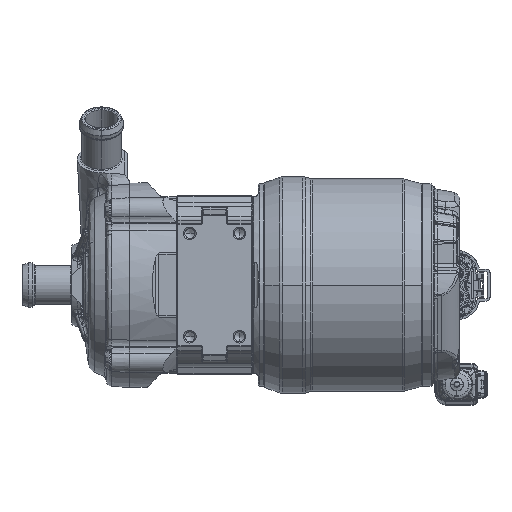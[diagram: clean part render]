
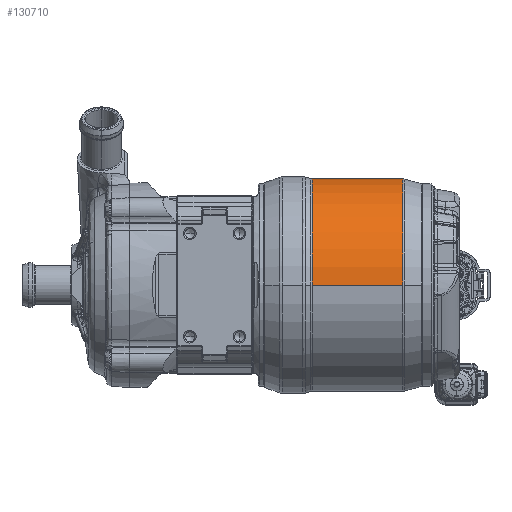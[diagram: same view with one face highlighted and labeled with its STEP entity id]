
A CAD part, front view. The second image highlights one B-rep face of the part: STEP entity #130710.
In plain terms, the highlighted cylindrical face has radius 53.5 mm (diameter 107 mm), a partial arc.
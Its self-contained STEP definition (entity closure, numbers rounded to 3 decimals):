
#845 = CARTESIAN_POINT ( 'NONE',  ( 75.643, -53.5, 0. ) ) ;
#2568 = CIRCLE ( 'NONE', #140971, 53.5 ) ;
#6631 = CARTESIAN_POINT ( 'NONE',  ( 75.643, 0., 53.5 ) ) ;
#9748 = AXIS2_PLACEMENT_3D ( 'NONE', #181688, #33731, #182382 ) ;
#12570 = DIRECTION ( 'NONE',  ( 1., 0., 0. ) ) ;
#14164 = LINE ( 'NONE', #122957, #207560 ) ;
#15758 = ORIENTED_EDGE ( 'NONE', *, *, #134814, .T. ) ;
#18567 = VERTEX_POINT ( 'NONE', #41087 ) ;
#19035 = AXIS2_PLACEMENT_3D ( 'NONE', #173330, #12570, #58779 ) ;
#28387 = CARTESIAN_POINT ( 'NONE',  ( -92.596, -53.5, 0. ) ) ;
#29681 = VERTEX_POINT ( 'NONE', #845 ) ;
#33731 = DIRECTION ( 'NONE',  ( 1., 0., 0. ) ) ;
#37219 = DIRECTION ( 'NONE',  ( -1., 0., 0. ) ) ;
#40004 = CARTESIAN_POINT ( 'NONE',  ( 75.643, 0., 0. ) ) ;
#41087 = CARTESIAN_POINT ( 'NONE',  ( 75.643, 53.5, 0. ) ) ;
#47417 = VERTEX_POINT ( 'NONE', #131856 ) ;
#47506 = DIRECTION ( 'NONE',  ( -1., 0., 0. ) ) ;
#58779 = DIRECTION ( 'NONE',  ( 0., -1., 0. ) ) ;
#68824 = DIRECTION ( 'NONE',  ( 0., -1., 0. ) ) ;
#70065 = AXIS2_PLACEMENT_3D ( 'NONE', #186227, #196899, #68824 ) ;
#71168 = CARTESIAN_POINT ( 'NONE',  ( -92.596, 0., 0. ) ) ;
#74114 = VECTOR ( 'NONE', #47506, 1000. ) ;
#74616 = ORIENTED_EDGE ( 'NONE', *, *, #103602, .T. ) ;
#76671 = FACE_OUTER_BOUND ( 'NONE', #124581, .T. ) ;
#80405 = ORIENTED_EDGE ( 'NONE', *, *, #129362, .F. ) ;
#87427 = ORIENTED_EDGE ( 'NONE', *, *, #161398, .T. ) ;
#90451 = CIRCLE ( 'NONE', #19035, 53.5 ) ;
#103602 = EDGE_CURVE ( 'NONE', #196003, #18567, #2568, .T. ) ;
#115520 = CIRCLE ( 'NONE', #70065, 53.5 ) ;
#122957 = CARTESIAN_POINT ( 'NONE',  ( -92.596, 53.5, 0. ) ) ;
#124581 = EDGE_LOOP ( 'NONE', ( #177746, #74616, #87427, #15758, #202118, #80405 ) ) ;
#129362 = EDGE_CURVE ( 'NONE', #29681, #210707, #170874, .T. ) ;
#130110 = CYLINDRICAL_SURFACE ( 'NONE', #191622, 53.5 ) ;
#130710 = ADVANCED_FACE ( 'NONE', ( #76671 ), #130110, .T. ) ;
#131856 = CARTESIAN_POINT ( 'NONE',  ( 30.259, 53.5, 0. ) ) ;
#134814 = EDGE_CURVE ( 'NONE', #47417, #177363, #202847, .T. ) ;
#137212 = DIRECTION ( 'NONE',  ( -1., 0., 0. ) ) ;
#140971 = AXIS2_PLACEMENT_3D ( 'NONE', #40004, #37219, #199469 ) ;
#143513 = EDGE_CURVE ( 'NONE', #177363, #210707, #90451, .T. ) ;
#151494 = DIRECTION ( 'NONE',  ( -1., 0., 0. ) ) ;
#160655 = CARTESIAN_POINT ( 'NONE',  ( 30.259, -53.5, 0. ) ) ;
#161398 = EDGE_CURVE ( 'NONE', #18567, #47417, #14164, .T. ) ;
#169711 = CARTESIAN_POINT ( 'NONE',  ( 30.259, 0., 53.5 ) ) ;
#170874 = LINE ( 'NONE', #28387, #74114 ) ;
#173330 = CARTESIAN_POINT ( 'NONE',  ( 30.259, 0., 0. ) ) ;
#177363 = VERTEX_POINT ( 'NONE', #169711 ) ;
#177746 = ORIENTED_EDGE ( 'NONE', *, *, #192913, .T. ) ;
#181688 = CARTESIAN_POINT ( 'NONE',  ( 30.259, 0., 0. ) ) ;
#182382 = DIRECTION ( 'NONE',  ( 0., -1., 0. ) ) ;
#184270 = DIRECTION ( 'NONE',  ( 0., -1., 0. ) ) ;
#186227 = CARTESIAN_POINT ( 'NONE',  ( 75.643, 0., 0. ) ) ;
#191622 = AXIS2_PLACEMENT_3D ( 'NONE', #71168, #151494, #184270 ) ;
#192913 = EDGE_CURVE ( 'NONE', #29681, #196003, #115520, .T. ) ;
#196003 = VERTEX_POINT ( 'NONE', #6631 ) ;
#196899 = DIRECTION ( 'NONE',  ( -1., 0., 0. ) ) ;
#199469 = DIRECTION ( 'NONE',  ( 0., -1., 0. ) ) ;
#202118 = ORIENTED_EDGE ( 'NONE', *, *, #143513, .T. ) ;
#202847 = CIRCLE ( 'NONE', #9748, 53.5 ) ;
#207560 = VECTOR ( 'NONE', #137212, 1000. ) ;
#210707 = VERTEX_POINT ( 'NONE', #160655 ) ;
